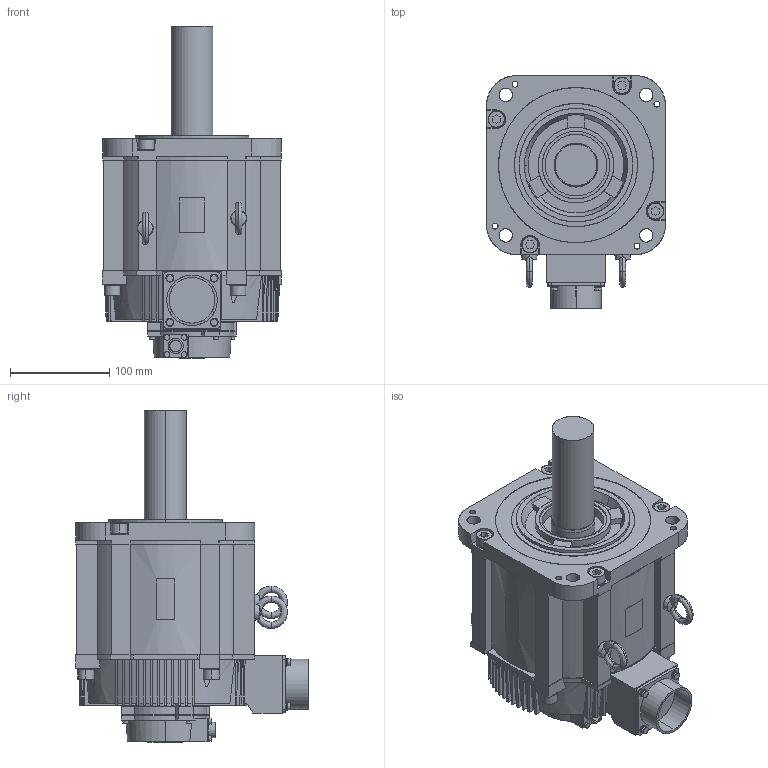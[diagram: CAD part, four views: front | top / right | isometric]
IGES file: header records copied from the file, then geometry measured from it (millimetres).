
Start section: SolidWorks IGES file using analytic representation for surfaces
Global section: file name: D:\YASKAWA\sgm7g_55__a21.IGS; native system: SolidWorks 2006 by SolidWorks Corporation; preprocessor: SolidWorks 2006 by SolidWorks Corporation; author: yamanouchi; date: 140507.140949; units: millimetre
Bounding box: 180 x 233.75 x 334.1 mm (x, y, z)
Surface area: 282968.7 mm2 (no closed solid volume)
Topology: 0 solids, 0 shells, 914 faces, 11244 edges, 11240 vertices
Faces by surface type: bspline 592, revolution 322
